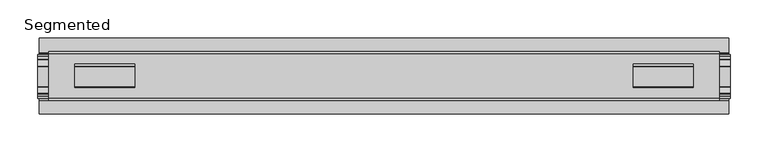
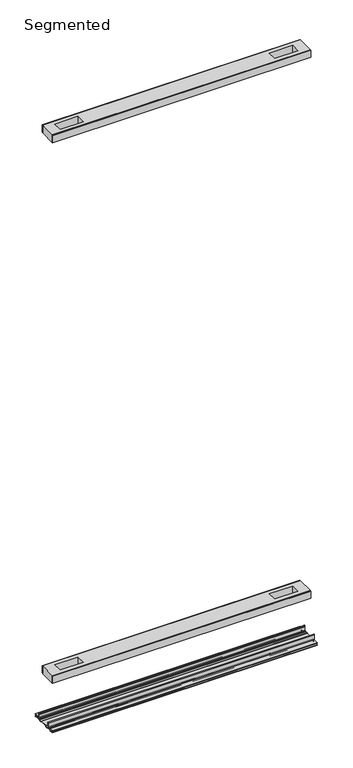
"""IFC4 building model written with IfcOpenShell, lengths in millimetres: proxy geometry, Frame-Teknion-FHCRA-Horizontal_Rail-R2022 : Segmented."""

from ifc_helpers import new_model, si_unit, point, frame, frame_2d, origin, place, context, project, spatial, polyline, circle_curve, trimmed, segment, composite_curve, outline, extrude, source, transform, mapped, element, save


def segmented_118d80a4(model_context):
    return source(origin(), model_context, "Body", "SweptSolid", [
        extrude(outline(polyline([(441.2615091, 29.0068005), (-441.2615091, 29.0068005), (-441.2615091, 32.1817997), (441.2615091, 32.1817997), (441.2615091, 29.0068005)])), frame((0.0, 0.0, 2107.0117561), z_axis=(0.0, 0.0, 1.0), x_axis=(1.0, 0.0, 0.0)), (0.0, 0.0, 1.0), 25.3999939),
        extrude(outline(polyline([(441.2615091, -32.1817997), (-441.2615091, -32.1817997), (-441.2615091, -29.0068005), (441.2615091, -29.0068005), (441.2615091, -32.1817997)])), frame((0.0, 0.0, 2107.0117561), z_axis=(0.0, 0.0, 1.0), x_axis=(1.0, 0.0, 0.0)), (0.0, 0.0, 1.0), 25.3999939),
        extrude(outline(polyline([(441.2615091, -29.0068005), (-441.2615091, -29.0068005), (-441.2615091, 29.0068005), (441.2615091, 29.0068005), (441.2615091, -29.0068005)]), holes=[polyline([(406.8444965, -15.1130038), (406.8444965, 15.875003), (327.7996847, 15.875003), (327.7996847, -15.1130038), (406.8444965, -15.1130038)]), polyline([(-406.8444965, -15.1130038), (-327.7996847, -15.1130038), (-327.7996847, 15.875003), (-406.8444965, 15.875003), (-406.8444965, -15.1130038)])]), frame((0.0, 0.0, 2105.5901786), z_axis=(0.0, 0.0, 1.0), x_axis=(1.0, 0.0, 0.0)), (0.0, 0.0, 1.0), 27.9999988),
        extrude(outline(polyline([(441.2615091, 29.0068005), (-441.2615091, 29.0068005), (-441.2615091, 32.1817997), (441.2615091, 32.1817997), (441.2615091, 29.0068005)])), frame((0.0, 0.0, 149.8401622), z_axis=(0.0, 0.0, 1.0), x_axis=(1.0, 0.0, 0.0)), (0.0, 0.0, 1.0), 25.3999939),
        extrude(outline(polyline([(441.2615091, -32.1817997), (-441.2615091, -32.1817997), (-441.2615091, -29.0068005), (441.2615091, -29.0068005), (441.2615091, -32.1817997)])), frame((0.0, 0.0, 149.8401622), z_axis=(0.0, 0.0, 1.0), x_axis=(1.0, 0.0, 0.0)), (0.0, 0.0, 1.0), 25.3999939),
        extrude(outline(polyline([(441.2615091, -29.0068005), (-441.2615091, -29.0068005), (-441.2615091, 29.0068005), (441.2615091, 29.0068005), (441.2615091, -29.0068005)]), holes=[polyline([(406.8444965, -15.1130038), (406.8444965, 15.875003), (327.7996847, 15.875003), (327.7996847, -15.1130038), (406.8444965, -15.1130038)]), polyline([(-406.8444965, -15.1130038), (-327.7996847, -15.1130038), (-327.7996847, 15.875003), (-406.8444965, 15.875003), (-406.8444965, -15.1130038)])]), frame((0.0, 0.0, 148.4185847), z_axis=(0.0, 0.0, 1.0), x_axis=(1.0, 0.0, 0.0)), (0.0, 0.0, 1.0), 27.9999988),
        extrude(outline(composite_curve([segment(trimmed(circle_curve(frame_2d((26.6420561, -7.7516037)), 2.17424), [point((28.8162961, -7.7516037))], [point((26.6420561, -9.9258438))], False, "CARTESIAN"), True, "CONTINUOUS"), segment(polyline([(26.6420561, -9.9258438), (22.3510694, -9.9258438)]), True, "CONTINUOUS"), segment(trimmed(circle_curve(frame_2d((17.7706549, -6.4800016)), 5.7318431), [point((22.3510694, -9.9258438))], [point((13.1902404, -9.9258438))], False, "CARTESIAN"), True, "CONTINUOUS"), segment(polyline([(13.1902404, -9.9258438), (-13.57124, -9.9258438)]), True, "CONTINUOUS"), segment(trimmed(circle_curve(frame_2d((-18.1516545, -6.4800016)), 5.7318431), [point((-13.57124, -9.9258438))], [point((-22.732069, -9.9258438))], False, "CARTESIAN"), True, "CONTINUOUS"), segment(polyline([(-22.732069, -9.9258438), (-27.0230557, -9.9258438)]), True, "CONTINUOUS"), segment(trimmed(circle_curve(frame_2d((-27.0230557, -7.7516037)), 2.17424), [point((-27.0230557, -9.9258438))], [point((-29.1972958, -7.7516037))], False, "CARTESIAN"), True, "CONTINUOUS"), segment(polyline([(-29.1972958, -7.7516037), (-29.1972958, 9.8607558)]), True, "CONTINUOUS"), segment(trimmed(circle_curve(frame_2d((-27.9780978, 9.8607558)), 1.2191979), [point((-29.1972958, 9.8607558))], [point((-26.7588999, 9.8607558))], False, "CARTESIAN"), True, "CONTINUOUS"), segment(polyline([(-26.7588999, 9.8607558), (-26.7588999, 5.9999563), (-28.0390765, 5.9999563), (-28.0390765, -7.7516037)]), True, "CONTINUOUS"), segment(trimmed(circle_curve(frame_2d((-27.0230557, -7.7516037)), 1.0160208), [point((-28.0390765, -7.7516037))], [point((-27.0295728, -8.7676036))], True, "CARTESIAN"), True, "CONTINUOUS"), segment(polyline([(-27.0295728, -8.7676036), (-23.0866222, -8.7676036), (-22.1732605, -8.968753)]), True, "CONTINUOUS"), segment(trimmed(circle_curve(frame_2d((-18.1483018, -6.1259382)), 4.9276657), [point((-22.1732605, -8.968753))], [point((-14.123343, -8.968753))], True, "CARTESIAN"), True, "CONTINUOUS"), segment(polyline([(-14.123343, -8.968753), (-13.2099722, -8.7676036), (12.8289726, -8.7676036), (13.7423434, -8.968753)]), True, "CONTINUOUS"), segment(trimmed(circle_curve(frame_2d((17.7673021, -6.1259382)), 4.9276657), [point((13.7423434, -8.968753))], [point((21.7922609, -8.968753))], True, "CARTESIAN"), True, "CONTINUOUS"), segment(polyline([(21.7922609, -8.968753), (22.7056226, -8.7676036), (26.6485732, -8.7676036)]), True, "CONTINUOUS"), segment(trimmed(circle_curve(frame_2d((26.6420561, -7.7516037)), 1.0160208), [point((26.6485732, -8.7676036))], [point((27.6580769, -7.7516037))], True, "CARTESIAN"), True, "CONTINUOUS"), segment(polyline([(27.6580769, -7.7516037), (27.6580769, 5.9999563), (26.3779003, 5.9999563), (26.3779003, 9.8607558)]), True, "CONTINUOUS"), segment(trimmed(circle_curve(frame_2d((27.5970982, 9.8607558)), 1.2191979), [point((26.3779003, 9.8607558))], [point((28.8162961, 9.8607558))], False, "CARTESIAN"), True, "CONTINUOUS"), segment(polyline([(28.8162961, 9.8607558), (28.8162961, -7.7516037)]), True, "CONTINUOUS")], self_intersect=False)), frame((-455.3204, 0.0, 0.0), z_axis=(1.0, 0.0, 0.0), x_axis=(0.0, 1.0, 0.0)), (0.0, 0.0, 1.0), 910.6408),
        extrude(outline(composite_curve([segment(polyline([(50.2668422, -13.9898438), (39.6557522, -13.9898438)]), True, "CONTINUOUS"), segment(trimmed(circle_curve(frame_2d((39.6557522, -12.4658438)), 1.524), [point((39.6557522, -13.9898438))], [point((38.1317522, -12.4658438))], False, "CARTESIAN"), True, "CONTINUOUS"), segment(polyline([(38.1317522, -12.4658438), (38.1317522, -7.766844), (31.3054974, -7.766844), (31.3054974, -10.0528438)]), True, "CONTINUOUS"), segment(trimmed(circle_curve(frame_2d((29.7814974, -10.0528438)), 1.524), [point((31.3054974, -10.0528438))], [point((29.7814974, -11.5768438))], False, "CARTESIAN"), True, "CONTINUOUS"), segment(polyline([(29.7814974, -11.5768438), (23.2753553, -11.5768438)]), True, "CONTINUOUS"), segment(trimmed(circle_curve(frame_2d((17.7673021, -6.4968436)), 7.4930002), [point((23.2753553, -11.5768438))], [point((12.5094972, -11.8354331))], False, "CARTESIAN"), True, "CONTINUOUS"), segment(polyline([(12.5094972, -11.8354331), (-12.8904968, -11.8354331)]), True, "CONTINUOUS"), segment(trimmed(circle_curve(frame_2d((-18.1483018, -6.4968436)), 7.4930002), [point((-12.8904968, -11.8354331))], [point((-23.6563549, -11.5768438))], False, "CARTESIAN"), True, "CONTINUOUS"), segment(polyline([(-23.6563549, -11.5768438), (-30.1624971, -11.5768438)]), True, "CONTINUOUS"), segment(trimmed(circle_curve(frame_2d((-30.1624971, -10.0528438)), 1.524), [point((-30.1624971, -11.5768438))], [point((-31.686497, -10.0528438))], False, "CARTESIAN"), True, "CONTINUOUS"), segment(polyline([(-31.686497, -10.0528438), (-31.686497, -7.766844), (-38.5127519, -7.766844), (-38.5127519, -12.4658438)]), True, "CONTINUOUS"), segment(trimmed(circle_curve(frame_2d((-40.0367518, -12.4658438)), 1.524), [point((-38.5127519, -12.4658438))], [point((-40.0367518, -13.9898438))], False, "CARTESIAN"), True, "CONTINUOUS"), segment(polyline([(-40.0367518, -13.9898438), (-50.00625, -13.9898438), (-50.00625, -12.3388438), (-40.1637503, -12.3388438), (-40.1637503, -7.766844), (-50.00625, -7.766844), (-50.00625, -6.1158439), (-31.6239218, -6.1158439)]), True, "CONTINUOUS"), segment(trimmed(circle_curve(frame_2d((-31.6864982, -7.7656583)), 1.6510007), [point((-31.6239218, -6.1158439))], [point((-30.0354975, -7.7656583))], False, "CARTESIAN"), True, "CONTINUOUS"), segment(polyline([(-30.0354975, -7.7656583), (-30.0354975, -9.9258438), (-23.486834, -9.9258438)]), True, "CONTINUOUS"), segment(trimmed(circle_curve(frame_2d((-18.1483018, -5.2268471)), 7.1119966), [point((-23.486834, -9.9258438))], [point((-12.8097695, -9.9258438))], True, "CARTESIAN"), True, "CONTINUOUS"), segment(polyline([(-12.8097695, -9.9258438), (12.4287699, -9.9258438)]), True, "CONTINUOUS"), segment(trimmed(circle_curve(frame_2d((17.7673021, -5.2268471)), 7.1119966), [point((12.4287699, -9.9258438))], [point((23.1058344, -9.9258438))], True, "CARTESIAN"), True, "CONTINUOUS"), segment(polyline([(23.1058344, -9.9258438), (29.6544978, -9.9258438), (29.6544978, -7.6398436)]), True, "CONTINUOUS"), segment(trimmed(circle_curve(frame_2d((31.1784975, -7.6398436)), 1.5239997), [point((29.6544978, -7.6398436))], [point((31.1784975, -6.1158439))], False, "CARTESIAN"), True, "CONTINUOUS"), segment(polyline([(31.1784975, -6.1158439), (50.2668422, -6.1158439), (50.2240211, -7.766844), (39.7827507, -7.766844), (39.7827507, -12.3388438), (50.2240211, -12.3388438), (50.2668422, -13.9898438)]), True, "CONTINUOUS")], self_intersect=False)), frame((-453.6694, 0.0, 0.0), z_axis=(1.0, 0.0, 0.0), x_axis=(0.0, 1.0, 0.0)), (0.0, 0.0, 1.0), 907.3388),
    ])


if __name__ == "__main__":
    model = new_model("IFC4")
    model_context = context("Model", 3, world=origin())
    ifc_project = project(units=[si_unit("LENGTHUNIT", "METRE", prefix="MILLI")], contexts=[model_context])
    site = spatial("IfcSite", under=ifc_project)
    building = spatial("IfcBuilding", under=site)
    placement = place(None, origin())
    segmented_shape = segmented_118d80a4(model_context)
    element("IfcBuildingElementProxy", 1, Name="Frame-Teknion-FHCRA-Horizontal_Rail-R2022 : Segmented", ObjectType="Frame-Teknion-FHCRA-Horizontal_Rail-R2022 : Segmented", at=placement, inside=building, context=model_context, shape_type="MappedRepresentation", body=[
        mapped(segmented_shape, transform((0.0, 0.0, 0.0), x_axis=(1.0, 0.0, 0.0), y_axis=(0.0, 1.0, 0.0), z_axis=(0.0, 0.0, 1.0))),
    ])
    save(model, "model.ifc")
